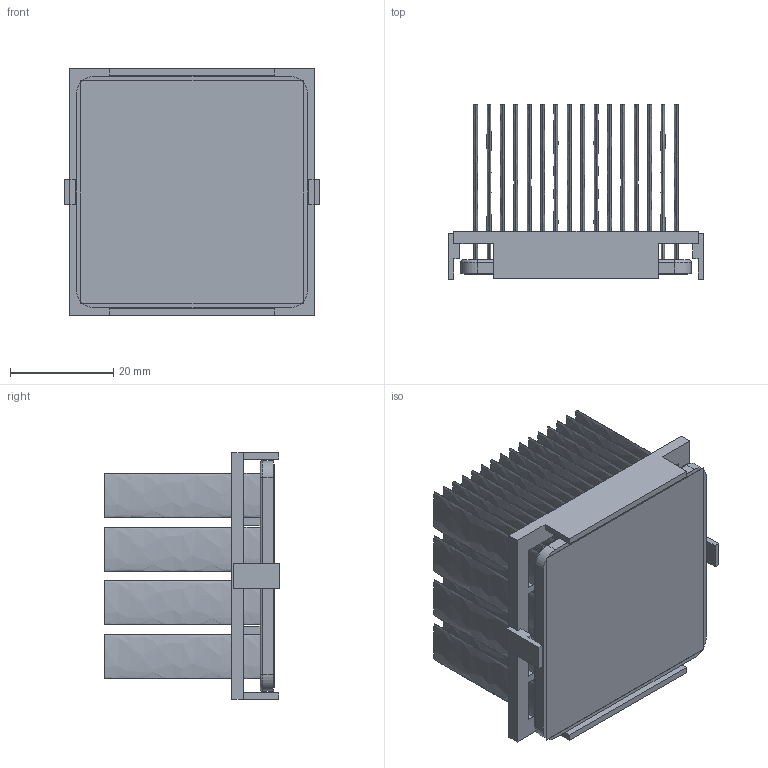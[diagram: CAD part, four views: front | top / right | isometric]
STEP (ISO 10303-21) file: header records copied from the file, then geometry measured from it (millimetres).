
FILE_DESCRIPTION (( 'STEP AP214' ), '1' );
FILE_NAME ('INM45001-33W-2.6O.STEP', '2023-02-28T00:52:54', ( '' ), ( '' ), 'SwSTEP 2.0', 'SolidWorks 2020', '' );
FILE_SCHEMA (( 'AUTOMOTIVE_DESIGN' ));
Length unit declared in the file: inch
Products named in the file (1): INM45001-33W-2.6O
Bounding box: 49.2 x 33.7 x 47.7 mm (x, y, z)
Volume: 17936.4 mm3; surface area: 44545.6 mm2
Topology: 3 solids, 3 shells, 274 faces, 604 edges, 400 vertices
Faces by surface type: plane 134, bspline 128, cylinder 8, torus 4
Entity records: 11396 total; most frequent: CARTESIAN_POINT 2943, ORIENTED_EDGE 1208, DIRECTION 662, EDGE_CURVE 604, VERTEX_POINT 400, EDGE_LOOP 340, VECTOR 328, LINE 328
